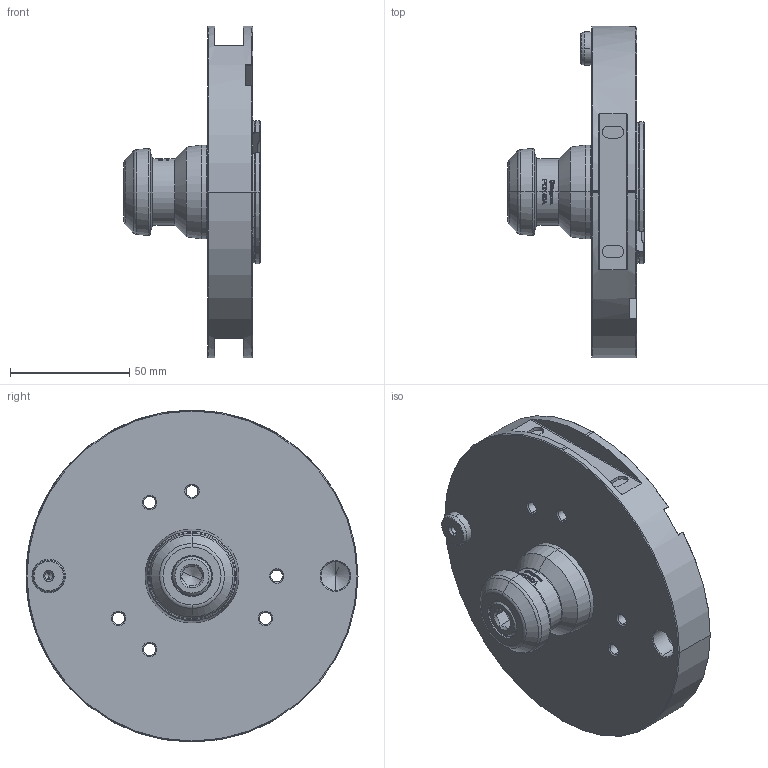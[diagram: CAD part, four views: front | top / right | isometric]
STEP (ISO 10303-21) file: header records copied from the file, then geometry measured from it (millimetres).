
FILE_DESCRIPTION (( 'STEP AP203' ), '1' );
FILE_NAME ('61P296238.STEP', '2024-04-26T06:45:29', ( '' ), ( '' ), 'SwSTEP 2.0', 'SolidWorks 2022', '' );
FILE_SCHEMA (( 'CONFIG_CONTROL_DESIGN' ));
Length unit declared in the file: millimetre
Products named in the file (5): 61P293306; 0030110045; 61P296238; 61P493325; 61P864170
Assembly tree (4 placements, depth 2):
  61P296238
    61P864170
    61P293306
    0030110045
    61P493325
Bounding box: 57 x 139 x 139 mm (x, y, z)
Volume: 308033.6 mm3; surface area: 55184.5 mm2
Topology: 4 solids, 4 shells, 489 faces, 1919 edges, 1476 vertices
Faces by surface type: plane 151, bspline 118, cone 104, cylinder 97, torus 19
Entity records: 25581 total; most frequent: CARTESIAN_POINT 11070, ORIENTED_EDGE 3822, DIRECTION 2047, EDGE_CURVE 1911, VERTEX_POINT 1476, AXIS2_PLACEMENT_3D 731, VECTOR 585, LINE 585
